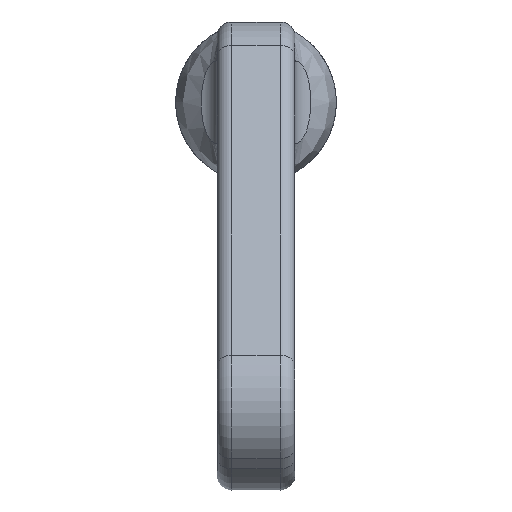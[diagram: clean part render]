
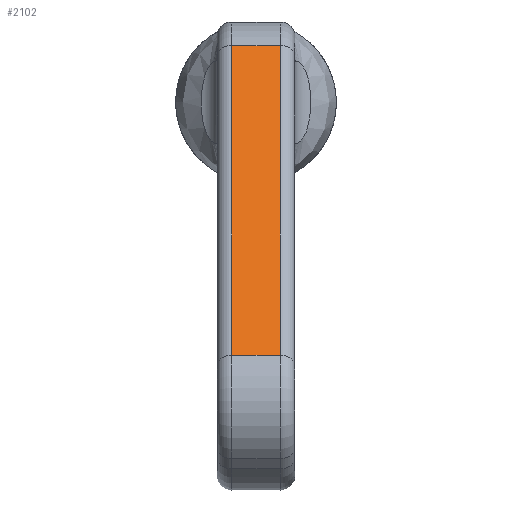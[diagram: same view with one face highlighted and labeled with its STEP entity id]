
A CAD part, left-side view. The second image highlights one B-rep face of the part: STEP entity #2102.
In plain terms, the highlighted planar face has unit normal (-0.707, 0, 0.707).
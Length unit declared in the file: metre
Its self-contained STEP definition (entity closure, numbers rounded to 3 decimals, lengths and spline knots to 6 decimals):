
#116=LINE('',#3715,#225);
#117=LINE('',#3719,#226);
#118=LINE('',#3721,#227);
#119=LINE('',#3723,#228);
#225=VECTOR('',#2665,1.);
#226=VECTOR('',#2670,1.);
#227=VECTOR('',#2671,1.);
#228=VECTOR('',#2672,1.);
#294=PLANE('',#2299);
#583=ORIENTED_EDGE('',*,*,#1190,.T.);
#584=ORIENTED_EDGE('',*,*,#1192,.T.);
#585=ORIENTED_EDGE('',*,*,#1193,.F.);
#586=ORIENTED_EDGE('',*,*,#1194,.T.);
#1190=EDGE_CURVE('',#1494,#1493,#116,.T.);
#1192=EDGE_CURVE('',#1493,#1495,#117,.T.);
#1193=EDGE_CURVE('',#1496,#1495,#118,.T.);
#1194=EDGE_CURVE('',#1496,#1494,#119,.F.);
#1493=VERTEX_POINT('',#3714);
#1494=VERTEX_POINT('',#3716);
#1495=VERTEX_POINT('',#3720);
#1496=VERTEX_POINT('',#3722);
#1691=EDGE_LOOP('',(#583,#584,#585,#586));
#1876=FACE_BOUND('',#1691,.T.);
#2102=ADVANCED_FACE('',(#1876),#294,.F.);
#2299=AXIS2_PLACEMENT_3D('',#3718,#2668,#2669);
#2665=DIRECTION('',(0.,1.,0.));
#2668=DIRECTION('',(0.707,0.,-0.707));
#2669=DIRECTION('',(-0.707,0.,-0.707));
#2670=DIRECTION('',(-0.707,0.,-0.707));
#2671=DIRECTION('',(0.,1.,0.));
#2672=DIRECTION('',(-0.707,0.,-0.707));
#3714=CARTESIAN_POINT('',(-0.011667,0.005,0.011667));
#3715=CARTESIAN_POINT('',(-0.011667,-0.008,0.011667));
#3716=CARTESIAN_POINT('',(-0.011667,-0.005,0.011667));
#3718=CARTESIAN_POINT('',(-0.043487,-0.008,-0.020153));
#3719=CARTESIAN_POINT('',(-0.043487,0.005,-0.020153));
#3720=CARTESIAN_POINT('',(-0.075307,0.005,-0.051972));
#3721=CARTESIAN_POINT('',(-0.075307,-0.008,-0.051972));
#3722=CARTESIAN_POINT('',(-0.075307,-0.005,-0.051972));
#3723=CARTESIAN_POINT('',(-0.011667,-0.005,0.011667));
